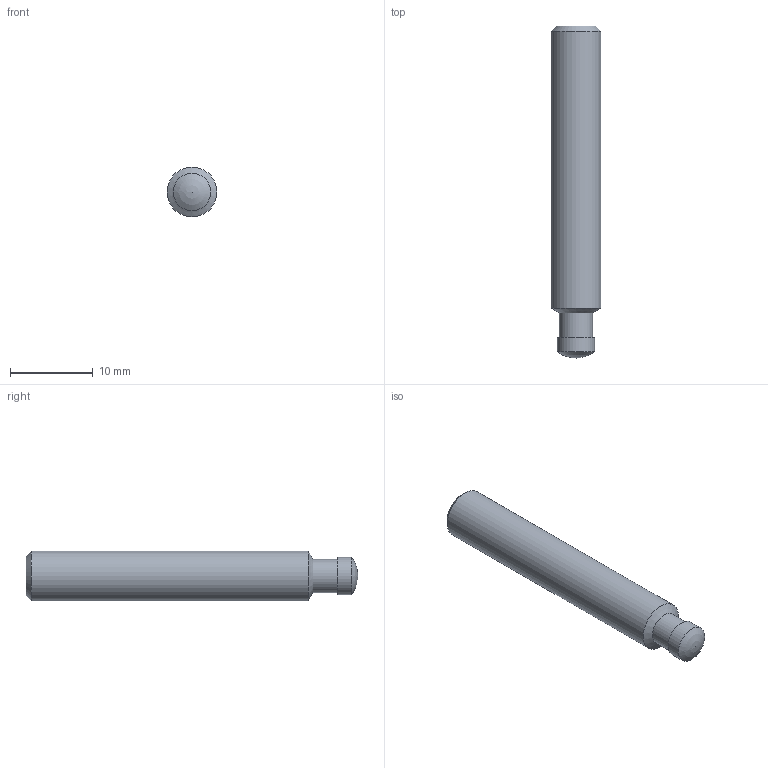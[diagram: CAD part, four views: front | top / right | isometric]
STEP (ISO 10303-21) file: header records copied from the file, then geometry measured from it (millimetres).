
FILE_DESCRIPTION( ( 'STEP AP203' ), '1' );
FILE_NAME( 'C:/Temp/Ganter_Step_05_03_2020/data/3_2/din6332/din6332/Grub screw DIN 6332-M6-40-SK.stp', '2020-03-13T05:16:18', ( 'License CC BY-ND 4.0' ), ( 'CADENAS' ), ' ', 'PARTsolutions', ' ' );
FILE_SCHEMA( ( 'CONFIG_CONTROL_DESIGN' ) );
Length unit declared in the file: millimetre
Products named in the file (1): _Grub screw DIN 6332-M6-40-SK
Bounding box: 6 x 40 x 6 mm (x, y, z)
Volume: 1024.7 mm3; surface area: 783.3 mm2
Topology: 1 solids, 1 shells, 15 faces, 33 edges, 21 vertices
Faces by surface type: plane 9, cylinder 3, cone 2, sphere 1
Full cylindrical faces by diameter (mm): 4 x1, 4.5 x1, 6 x1
Entity records: 410 total; most frequent: DIRECTION 64, CARTESIAN_POINT 61, ORIENTED_EDGE 50, EDGE_CURVE 25, AXIS2_PLACEMENT_3D 23, EDGE_LOOP 22, VERTEX_POINT 20, FACE_OUTER_BOUND 18
